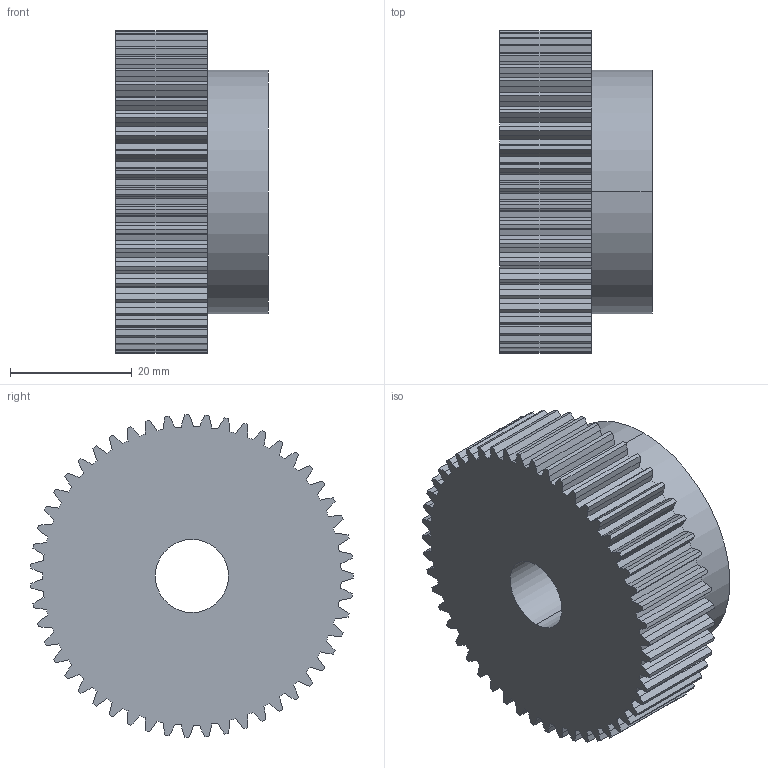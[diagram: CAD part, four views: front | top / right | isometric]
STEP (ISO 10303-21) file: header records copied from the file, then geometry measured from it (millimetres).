
FILE_DESCRIPTION (( 'STEP AP203' ), '1' );
FILE_NAME ('PM 26051.STEP', '2013-09-23T13:22:49', ( '' ), ( '' ), 'SwSTEP 2.0', 'SolidWorks 2010', '' );
FILE_SCHEMA (( 'CONFIG_CONTROL_DESIGN' ));
Length unit declared in the file: millimetre
Products named in the file (1): PM 26051
Bounding box: 25 x 52.97 x 52.99 mm (x, y, z)
Volume: 40131.1 mm3; surface area: 10562.1 mm2
Topology: 1 solids, 1 shells, 313 faces, 930 edges, 620 vertices
Faces by surface type: plane 207, cylinder 106
Entity records: 10559 total; most frequent: CARTESIAN_POINT 1870, ORIENTED_EDGE 1860, DIRECTION 1768, EDGE_CURVE 930, VECTOR 716, LINE 716, VERTEX_POINT 620, AXIS2_PLACEMENT_3D 526
